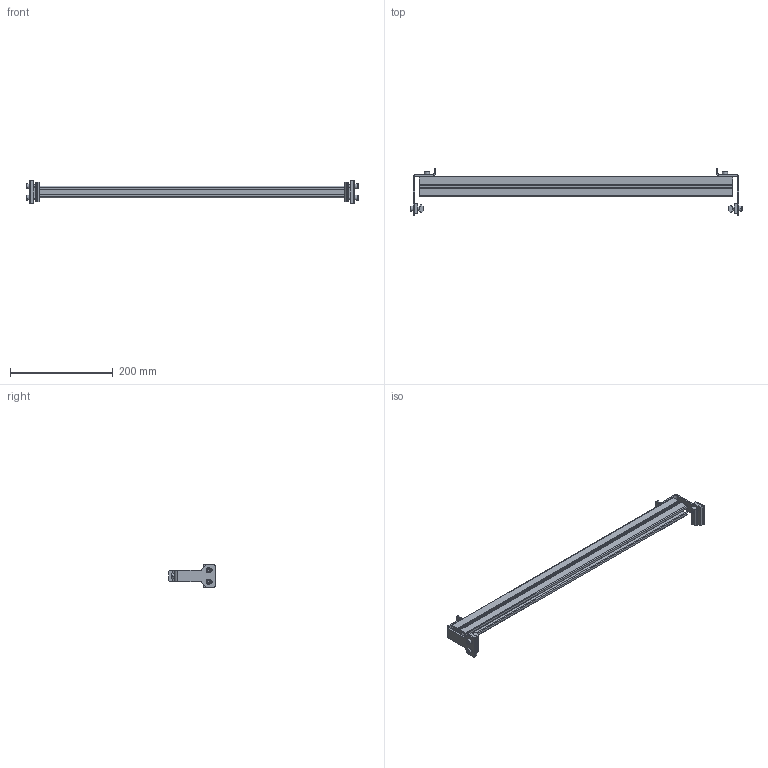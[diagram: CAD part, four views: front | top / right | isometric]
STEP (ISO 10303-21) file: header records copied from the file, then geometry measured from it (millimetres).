
FILE_DESCRIPTION (( 'STEP AP203' ), '1' );
FILE_NAME ('207137-24.STEP', '2023-03-01T21:17:20', ( '' ), ( '' ), 'SwSTEP 2.0', 'SolidWorks 2020', '' );
FILE_SCHEMA (( 'CONFIG_CONTROL_DESIGN' ));
Length unit declared in the file: inch
Products named in the file (8): 639971M_CAE; 207134; 202444; 207137-24; 207135-WW_207135-24; 200626M; 9206XXM_920614M; 9206XXM_920620M
Assembly tree (15 placements, depth 2):
  207137-24
    207134  x2
    207135-WW_207135-24
    202444  x2
    200626M  x2
    639971M_CAE  x2
    9206XXM_920614M  x2
    9206XXM_920620M  x4
Bounding box: 645.37 x 90.68 x 44.45 mm (x, y, z)
Volume: 292312.9 mm3; surface area: 179264.6 mm2
Topology: 15 solids, 15 shells, 432 faces, 1042 edges, 652 vertices
Faces by surface type: plane 258, cylinder 108, cone 66
Entity records: 8328 total; most frequent: CARTESIAN_POINT 1374, DIRECTION 1230, ORIENTED_EDGE 1212, EDGE_CURVE 606, VECTOR 462, LINE 462, VERTEX_POINT 388, AXIS2_PLACEMENT_3D 384
